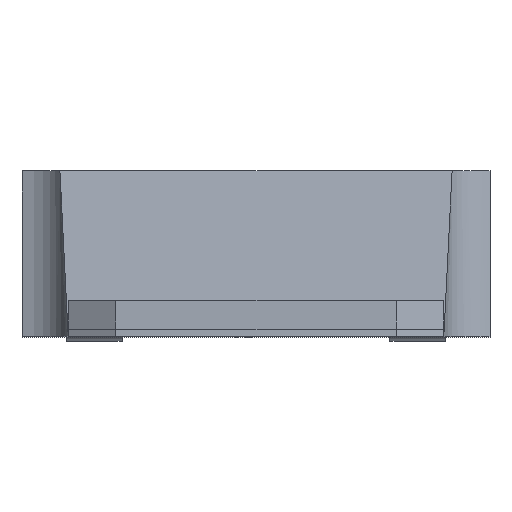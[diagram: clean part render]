
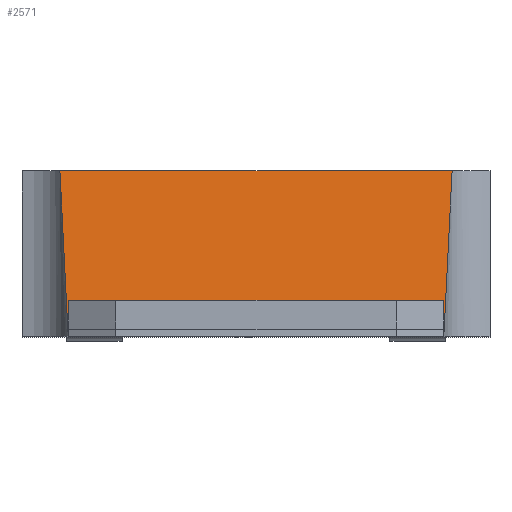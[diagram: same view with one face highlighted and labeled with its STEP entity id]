
A CAD part, top view. The second image highlights one B-rep face of the part: STEP entity #2571.
In plain terms, the highlighted planar face has unit normal (0, 0.122, 0.993).
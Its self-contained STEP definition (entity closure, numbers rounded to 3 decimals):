
#128 = CARTESIAN_POINT ( 'NONE',  ( -2.65, 0., 3.05 ) ) ;
#132 = EDGE_CURVE ( 'NONE', #3457, #698, #3547, .T. ) ;
#142 = CARTESIAN_POINT ( 'NONE',  ( 2.767, 2.337, 2.763 ) ) ;
#147 = EDGE_CURVE ( 'NONE', #3985, #2014, #2916, .T. ) ;
#192 = ORIENTED_EDGE ( 'NONE', *, *, #3613, .T. ) ;
#194 = CARTESIAN_POINT ( 'NONE',  ( -2.65, 0.1, 3.038 ) ) ;
#263 = ORIENTED_EDGE ( 'NONE', *, *, #132, .T. ) ;
#293 = VERTEX_POINT ( 'NONE', #3909 ) ;
#348 = FACE_OUTER_BOUND ( 'NONE', #3534, .T. ) ;
#392 = CARTESIAN_POINT ( 'NONE',  ( 2.65, 0.508, 2.988 ) ) ;
#396 = PLANE ( 'NONE',  #828 ) ;
#445 = CARTESIAN_POINT ( 'NONE',  ( -2.65, 0., 3.05 ) ) ;
#495 = EDGE_CURVE ( 'NONE', #1249, #293, #2342, .T. ) ;
#506 = CARTESIAN_POINT ( 'NONE',  ( 2.65, 0., 3.05 ) ) ;
#562 = VECTOR ( 'NONE', #1854, 1000. ) ;
#591 = CARTESIAN_POINT ( 'NONE',  ( 2.65, 0.1, 3.038 ) ) ;
#698 = VERTEX_POINT ( 'NONE', #194 ) ;
#714 = DIRECTION ( 'NONE',  ( 0., -0.993, 0.122 ) ) ;
#718 = VECTOR ( 'NONE', #727, 1000. ) ;
#727 = DIRECTION ( 'NONE',  ( 1., 0., 0. ) ) ;
#729 = CARTESIAN_POINT ( 'NONE',  ( -2.767, 2.337, 2.763 ) ) ;
#768 = ORIENTED_EDGE ( 'NONE', *, *, #3372, .F. ) ;
#828 = AXIS2_PLACEMENT_3D ( 'NONE', #2096, #1373, #714 ) ;
#882 = CARTESIAN_POINT ( 'NONE',  ( -2.65, 0., 3.05 ) ) ;
#898 = LINE ( 'NONE', #3589, #562 ) ;
#914 = CARTESIAN_POINT ( 'NONE',  ( -2.65, 0.508, 2.988 ) ) ;
#945 = CARTESIAN_POINT ( 'NONE',  ( 2.65, 0., 3.05 ) ) ;
#1030 = CARTESIAN_POINT ( 'NONE',  ( -2.65, 2.337, 2.763 ) ) ;
#1134 = DIRECTION ( 'NONE',  ( 0., 0.993, -0.122 ) ) ;
#1151 = ORIENTED_EDGE ( 'NONE', *, *, #1983, .F. ) ;
#1160 = CARTESIAN_POINT ( 'NONE',  ( -2.65, 0., 3.05 ) ) ;
#1207 = ORIENTED_EDGE ( 'NONE', *, *, #2694, .T. ) ;
#1249 = VERTEX_POINT ( 'NONE', #142 ) ;
#1256 = CARTESIAN_POINT ( 'NONE',  ( -2.706, 1.559, 2.859 ) ) ;
#1373 = DIRECTION ( 'NONE',  ( 0., 0.122, 0.993 ) ) ;
#1427 = VECTOR ( 'NONE', #3518, 1000. ) ;
#1852 = DIRECTION ( 'NONE',  ( 0., 0.993, -0.122 ) ) ;
#1854 = DIRECTION ( 'NONE',  ( 0., -0.993, 0.122 ) ) ;
#1976 = CARTESIAN_POINT ( 'NONE',  ( 2.673, 0.78, 2.954 ) ) ;
#1983 = EDGE_CURVE ( 'NONE', #293, #3429, #3159, .T. ) ;
#2014 = VERTEX_POINT ( 'NONE', #2113 ) ;
#2096 = CARTESIAN_POINT ( 'NONE',  ( -2.65, 0., 3.05 ) ) ;
#2113 = CARTESIAN_POINT ( 'NONE',  ( -2.65, 0.508, 2.988 ) ) ;
#2232 = LINE ( 'NONE', #445, #3263 ) ;
#2300 = ORIENTED_EDGE ( 'NONE', *, *, #495, .F. ) ;
#2342 = B_SPLINE_CURVE_WITH_KNOTS ( 'NONE', 3,
 ( #4336, #2685, #1976, #945 ),
 .UNSPECIFIED., .F., .F.,
 ( 4, 4 ),
 ( 0., 0.002 ),
 .UNSPECIFIED. ) ;
#2571 = ADVANCED_FACE ( 'NONE', ( #348 ), #396, .T. ) ;
#2682 = LINE ( 'NONE', #1030, #718 ) ;
#2685 = CARTESIAN_POINT ( 'NONE',  ( 2.706, 1.559, 2.859 ) ) ;
#2694 = EDGE_CURVE ( 'NONE', #698, #2014, #2232, .T. ) ;
#2748 = B_SPLINE_CURVE_WITH_KNOTS ( 'NONE', 3,
 ( #3276, #1256, #3919, #882 ),
 .UNSPECIFIED., .F., .F.,
 ( 4, 4 ),
 ( 0.008, 0.01 ),
 .UNSPECIFIED. ) ;
#2916 = LINE ( 'NONE', #914, #3986 ) ;
#3159 = LINE ( 'NONE', #506, #1427 ) ;
#3263 = VECTOR ( 'NONE', #1134, 1000. ) ;
#3276 = CARTESIAN_POINT ( 'NONE',  ( -2.767, 2.337, 2.763 ) ) ;
#3372 = EDGE_CURVE ( 'NONE', #4338, #1249, #2682, .T. ) ;
#3429 = VERTEX_POINT ( 'NONE', #591 ) ;
#3457 = VERTEX_POINT ( 'NONE', #128 ) ;
#3494 = ORIENTED_EDGE ( 'NONE', *, *, #4224, .T. ) ;
#3518 = DIRECTION ( 'NONE',  ( 0., 0.993, -0.122 ) ) ;
#3534 = EDGE_LOOP ( 'NONE', ( #3494, #263, #1207, #3960, #192, #1151, #2300, #768 ) ) ;
#3547 = LINE ( 'NONE', #1160, #3635 ) ;
#3587 = DIRECTION ( 'NONE',  ( -1., 0., 0. ) ) ;
#3589 = CARTESIAN_POINT ( 'NONE',  ( 2.65, 0., 3.05 ) ) ;
#3613 = EDGE_CURVE ( 'NONE', #3985, #3429, #898, .T. ) ;
#3635 = VECTOR ( 'NONE', #1852, 1000. ) ;
#3909 = CARTESIAN_POINT ( 'NONE',  ( 2.65, 0., 3.05 ) ) ;
#3919 = CARTESIAN_POINT ( 'NONE',  ( -2.673, 0.78, 2.954 ) ) ;
#3960 = ORIENTED_EDGE ( 'NONE', *, *, #147, .F. ) ;
#3985 = VERTEX_POINT ( 'NONE', #392 ) ;
#3986 = VECTOR ( 'NONE', #3587, 1000. ) ;
#4224 = EDGE_CURVE ( 'NONE', #4338, #3457, #2748, .T. ) ;
#4336 = CARTESIAN_POINT ( 'NONE',  ( 2.767, 2.337, 2.763 ) ) ;
#4338 = VERTEX_POINT ( 'NONE', #729 ) ;
